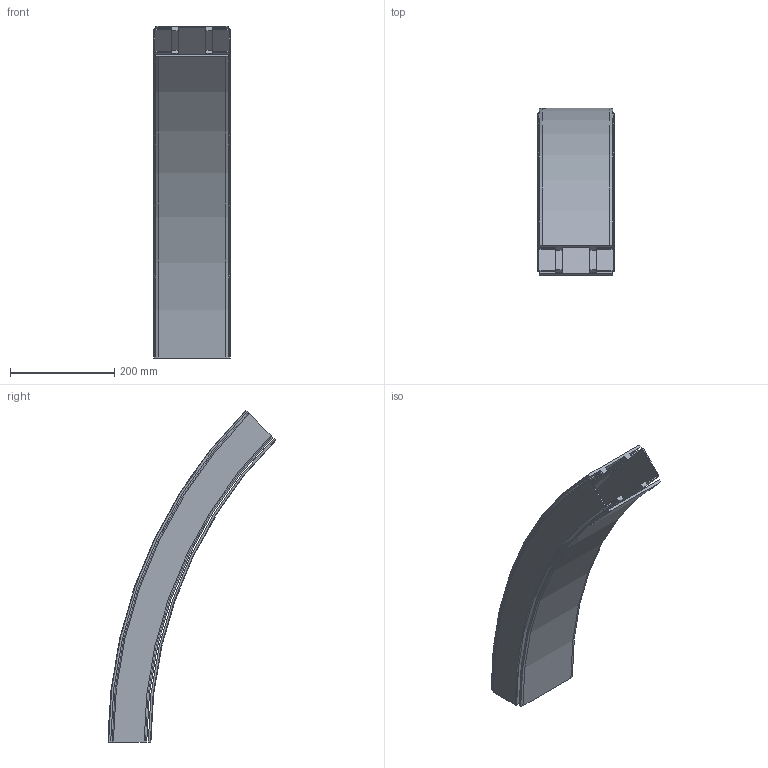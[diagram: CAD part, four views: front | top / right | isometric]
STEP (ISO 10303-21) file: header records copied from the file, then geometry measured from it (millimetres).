
FILE_DESCRIPTION((''),'2;1');
FILE_NAME('C:\Vault Klient\Projekt\Koncept konstruktion\Serie 540 Balk\540-5670_DOWN.stp','2010-11-26T08:34:54',('Mathias'),(''),'Autodesk Inventor 2011','Autodesk Inventor 2011','');
FILE_SCHEMA(('AUTOMOTIVE_DESIGN { 1 0 10303 214 1 1 1 1 }'));
Length unit declared in the file: millimetre
Products named in the file (1): 540-5670_DOWN
Bounding box: 146 x 321.44 x 636.04 mm (x, y, z)
Volume: 1548067 mm3; surface area: 804287.2 mm2
Topology: 2 solids, 2 shells, 87 faces, 234 edges, 156 vertices
Faces by surface type: plane 38, cylinder 25, bspline 14, cone 6, torus 4
Entity records: 3221 total; most frequent: CARTESIAN_POINT 983, ORIENTED_EDGE 468, DIRECTION 428, EDGE_CURVE 234, VERTEX_POINT 156, AXIS2_PLACEMENT_3D 148, VECTOR 132, LINE 132
